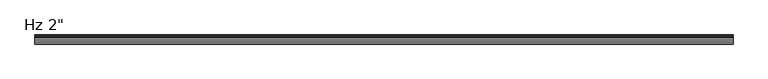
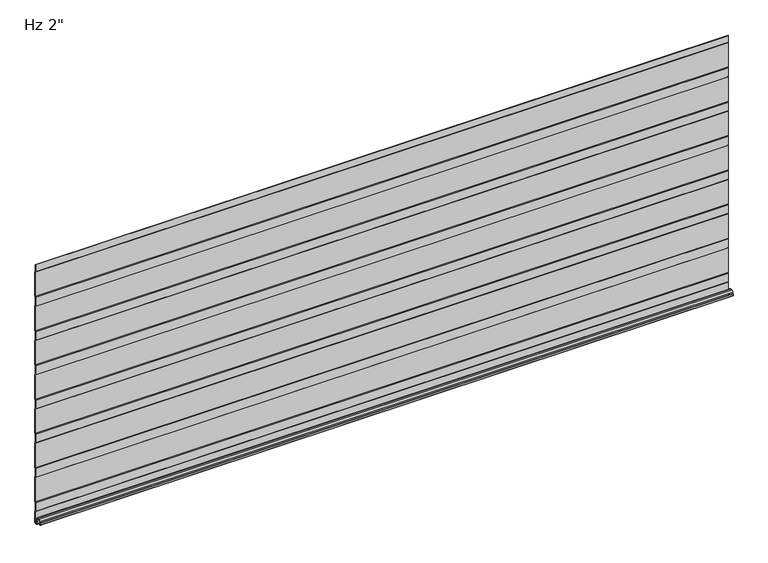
"""IFC4 building model written with IfcOpenShell, lengths in millimetres: plate geometry."""

from ifc_helpers import new_model, si_unit, frame, origin, place, context, project, spatial, polyline, circle_curve, source, transform, mapped, element, save
from ifc_brep_helpers import plane_surface, cylinder_surface, revolved_surface, advanced_brep


def plate_b517097e(model_context):
    return source(origin(), model_context, "Body", "AdvancedBrep", [
        advanced_brep(
        [(-730.0, -17.0015368, 2.0313088), (-730.0, -18.00154, 1.0313116), (-730.0, -19.0015314, 2.0313088), (-730.0, -19.0015314, 6.0315125), (-730.0, -18.0015368, 6.0315125), (-730.0, -18.0015368, 8.7237223), (-730.0, -14.7015411, 12.023718), (-730.0, -10.3015499, 12.023718), (-730.0, -7.0015544, 8.7237225), (-730.0, -7.0015544, -1.6962564), (-730.0, -5.2315602, -3.4662506), (-730.0, -1.0000126, -3.4662506), (-730.0, -1.0000126, 21.034026), (-730.0, -2.2002516, 22.4196686), (-730.0, -2.2002516, 41.7948349), (-730.0, -1.0000209, 43.1804679), (-730.0, -1.0000209, 97.2338833), (-730.0, -2.2002516, 98.6195162), (-730.0, -2.2002516, 117.9946825), (-730.0, -1.0000209, 119.3803155), (-730.0, -1.0000209, 173.4337309), (-730.0, -2.2002516, 174.8193638), (-730.0, -2.2002516, 194.1945301), (-730.0, -1.0000209, 195.5801631), (-730.0, -1.0000209, 249.6335785), (-730.0, -2.2002516, 251.0192114), (-730.0, -2.2002516, 270.3943777), (-730.0, -1.0000209, 271.7800107), (-730.0, -1.0000209, 325.8334261), (-730.0, -2.2002516, 327.219059), (-730.0, -2.2002516, 346.5942253), (-730.0, -1.0000209, 347.9798583), (-730.0, -1.0000209, 402.0332737), (-730.0, -2.2002516, 403.4189066), (-730.0, -2.2002516, 422.7940729), (-730.0, -1.0000209, 424.1797059), (-730.0, -1.0000209, 478.2331213), (-730.0, -2.2002516, 479.6187542), (-730.0, -2.2002516, 498.9939205), (-730.0, -1.0000209, 500.3795535), (-730.0, -1.0000209, 554.4329689), (-730.0, -2.2002516, 555.8186018), (-730.0, -2.2002516, 571.2), (-730.0, -1.2002516, 571.2), (-730.0, -1.2002516, 556.1914823), (-730.0, -0.3418094, 555.2004346), (-730.0, -2.09e-05, 554.2838177), (-730.0, -2.09e-05, 500.5287046), (-730.0, -0.3418094, 499.6120877), (-730.0, -1.2002516, 498.6210401), (-730.0, -1.2002516, 479.9916347), (-730.0, -0.3418094, 479.000587), (-730.0, -2.09e-05, 478.0839701), (-730.0, -2.09e-05, 424.328857), (-730.0, -0.3418094, 423.4122401), (-730.0, -1.2002516, 422.4211925), (-730.0, -1.2002516, 403.7917871), (-730.0, -0.3418094, 402.8007394), (-730.0, -2.09e-05, 401.8841225), (-730.0, -2.09e-05, 348.1290094), (-730.0, -0.3418094, 347.2123925), (-730.0, -1.2002516, 346.2213449), (-730.0, -1.2002516, 327.5919395), (-730.0, -0.3418094, 326.6008918), (-730.0, -2.09e-05, 325.6842749), (-730.0, -2.09e-05, 271.9291618), (-730.0, -0.3418094, 271.0125449), (-730.0, -1.2002516, 270.0214973), (-730.0, -1.2002516, 251.3920919), (-730.0, -0.3418094, 250.4010442), (-730.0, -2.09e-05, 249.4844273), (-730.0, -2.09e-05, 195.7293142), (-730.0, -0.3418094, 194.8126973), (-730.0, -1.2002516, 193.8216497), (-730.0, -1.2002516, 175.1922443), (-730.0, -0.3418094, 174.2011966), (-730.0, -2.09e-05, 173.2845797), (-730.0, -2.09e-05, 119.5294666), (-730.0, -0.3418094, 118.6128497), (-730.0, -1.2002516, 117.6218021), (-730.0, -1.2002516, 98.9923967), (-730.0, -0.3418094, 98.001349), (-730.0, -2.09e-05, 97.0847321), (-730.0, -2.09e-05, 43.329619), (-730.0, -0.3418094, 42.4130021), (-730.0, -1.2002516, 41.4219545), (-730.0, -1.2002516, 22.7925491), (-730.0, -0.3418094, 21.8015014), (-730.0, -2.09e-05, 20.8847931), (-730.0, -1.26e-05, -3.0662545), (-730.0, -1.4000087, -4.4662506), (-730.0, -5.2315602, -4.4662506), (-730.0, -8.0015544, -1.6962564), (-730.0, -8.0015544, 8.7237225), (-730.0, -10.3015499, 11.023718), (-730.0, -14.7015411, 11.023718), (-730.0, -17.0015368, 8.7237223), (730.0, -17.0015368, 2.0313088), (730.0, -17.0015368, 8.7237223), (730.0, -14.7015411, 11.023718), (730.0, -10.3015499, 11.023718), (730.0, -8.0015544, 8.7237225), (730.0, -8.0015544, -1.6962564), (730.0, -5.2315602, -4.4662506), (730.0, -1.4000087, -4.4662506), (730.0, -1.26e-05, -3.0662545), (730.0, -1.26e-05, 20.8848845), (730.0, -0.3418094, 21.8015014), (730.0, -1.2002516, 22.7925491), (730.0, -1.2002516, 41.4219545), (730.0, -0.3418094, 42.4130021), (730.0, -2.09e-05, 43.329619), (730.0, -2.09e-05, 97.0847321), (730.0, -0.3418094, 98.001349), (730.0, -1.2002516, 98.9923967), (730.0, -1.2002516, 117.6218021), (730.0, -0.3418094, 118.6128497), (730.0, -2.09e-05, 119.5294666), (730.0, -2.09e-05, 173.2845797), (730.0, -0.3418094, 174.2011966), (730.0, -1.2002516, 175.1922443), (730.0, -1.2002516, 193.8216497), (730.0, -0.3418094, 194.8126973), (730.0, -2.09e-05, 195.7293142), (730.0, -2.09e-05, 249.4844273), (730.0, -0.3418094, 250.4010442), (730.0, -1.2002516, 251.3920919), (730.0, -1.2002516, 270.0214973), (730.0, -0.3418094, 271.0125449), (730.0, -2.09e-05, 271.9291618), (730.0, -2.09e-05, 325.6842749), (730.0, -0.3418094, 326.6008918), (730.0, -1.2002516, 327.5919395), (730.0, -1.2002516, 346.2213449), (730.0, -0.3418094, 347.2123925), (730.0, -2.09e-05, 348.1290094), (730.0, -2.09e-05, 401.8841225), (730.0, -0.3418094, 402.8007394), (730.0, -1.2002516, 403.7917871), (730.0, -1.2002516, 422.4211925), (730.0, -0.3418094, 423.4122401), (730.0, -2.09e-05, 424.328857), (730.0, -2.09e-05, 478.0839701), (730.0, -0.3418094, 479.000587), (730.0, -1.2002516, 479.9916347), (730.0, -1.2002516, 498.6210401), (730.0, -0.3418094, 499.6120877), (730.0, -2.09e-05, 500.5287046), (730.0, -2.09e-05, 554.2838177), (730.0, -0.3418094, 555.2004346), (730.0, -1.2002516, 556.1914823), (730.0, -1.2002516, 571.2), (730.0, -2.2002516, 571.2), (730.0, -2.2002516, 555.8186018), (730.0, -1.0000209, 554.4329689), (730.0, -1.0000209, 500.3795535), (730.0, -2.2002516, 498.9939205), (730.0, -2.2002516, 479.6187542), (730.0, -1.0000209, 478.2331213), (730.0, -1.0000209, 424.1797059), (730.0, -2.2002516, 422.7940729), (730.0, -2.2002516, 403.4189066), (730.0, -1.0000209, 402.0332737), (730.0, -1.0000209, 347.9798583), (730.0, -2.2002516, 346.5942253), (730.0, -2.2002516, 327.219059), (730.0, -1.0000209, 325.8334261), (730.0, -1.0000209, 271.7800107), (730.0, -2.2002516, 270.3943777), (730.0, -2.2002516, 251.0192114), (730.0, -1.0000209, 249.6335785), (730.0, -1.0000209, 195.5801631), (730.0, -2.2002516, 194.1945301), (730.0, -2.2002516, 174.8193638), (730.0, -1.0000209, 173.4337309), (730.0, -1.0000209, 119.3803155), (730.0, -2.2002516, 117.9946825), (730.0, -2.2002516, 98.6195162), (730.0, -1.0000209, 97.2338833), (730.0, -1.0000209, 43.1804679), (730.0, -2.2002516, 41.7948349), (730.0, -2.2002516, 22.4196686), (730.0, -1.0000126, 21.034026), (730.0, -1.0000126, -3.4662506), (730.0, -5.2315602, -3.4662506), (730.0, -7.0015544, -1.6962564), (730.0, -7.0015544, 8.7237225), (730.0, -10.3015499, 12.023718), (730.0, -14.7015411, 12.023718), (730.0, -18.0015368, 8.7237223), (730.0, -18.0015368, 6.0315125), (730.0, -19.0015314, 6.0315125), (730.0, -19.0015314, 2.0313088), (730.0, -18.0015401, 1.0313116)],
        [
            (0, 1, circle_curve(frame((-730.0, -18.0015341, 2.0313088), z_axis=(-1.0, 0.0, 0.0), x_axis=(0.0, 0.0, 1.0)), 0.9999973)),
            (1, 2, circle_curve(frame((-730.0, -18.0015342, 2.0313088), z_axis=(-1.0, 0.0, 0.0), x_axis=(0.0, 0.0, 1.0)), 0.9999972)),
            (2, 3),
            (3, 4),
            (4, 5),
            (5, 6, circle_curve(frame((-730.0, -14.7015411, 8.7237223), z_axis=(-1.0, 0.0, 0.0), x_axis=(0.0, 0.0, 1.0)), 3.2999957)),
            (6, 7),
            (7, 8, circle_curve(frame((-730.0, -10.3015499, 8.7237225), z_axis=(-1.0, 0.0, 0.0), x_axis=(0.0, 0.0, 1.0)), 3.2999955)),
            (8, 9),
            (9, 10, circle_curve(frame((-730.0, -5.2315602, -1.6962564), z_axis=(1.0, 0.0, 0.0), x_axis=(0.0, 0.0, 1.0)), 1.7699942)),
            (10, 11),
            (11, 12),
            (12, 13),
            (13, 14),
            (14, 15),
            (15, 16),
            (16, 17),
            (17, 18),
            (18, 19),
            (19, 20),
            (20, 21),
            (21, 22),
            (22, 23),
            (23, 24),
            (24, 25),
            (25, 26),
            (26, 27),
            (27, 28),
            (28, 29),
            (29, 30),
            (30, 31),
            (31, 32),
            (32, 33),
            (33, 34),
            (34, 35),
            (35, 36),
            (36, 37),
            (37, 38),
            (38, 39),
            (39, 40),
            (40, 41),
            (41, 42),
            (42, 43),
            (43, 44),
            (44, 45),
            (45, 46, circle_curve(frame((-730.0, -1.4000181, 554.2838177), z_axis=(-1.0, 0.0, 0.0), x_axis=(0.0, 0.0, 1.0)), 1.3999972)),
            (46, 47),
            (47, 48, circle_curve(frame((-730.0, -1.4000181, 500.5287046), z_axis=(-1.0, 0.0, 0.0), x_axis=(0.0, 0.0, 1.0)), 1.3999972)),
            (48, 49),
            (49, 50),
            (50, 51),
            (51, 52, circle_curve(frame((-730.0, -1.4000181, 478.0839701), z_axis=(-1.0, 0.0, 0.0), x_axis=(0.0, 0.0, 1.0)), 1.3999972)),
            (52, 53),
            (53, 54, circle_curve(frame((-730.0, -1.4000181, 424.328857), z_axis=(-1.0, 0.0, 0.0), x_axis=(0.0, 0.0, 1.0)), 1.3999972)),
            (54, 55),
            (55, 56),
            (56, 57),
            (57, 58, circle_curve(frame((-730.0, -1.4000181, 401.8841225), z_axis=(-1.0, 0.0, 0.0), x_axis=(0.0, 0.0, 1.0)), 1.3999972)),
            (58, 59),
            (59, 60, circle_curve(frame((-730.0, -1.4000181, 348.1290094), z_axis=(-1.0, 0.0, 0.0), x_axis=(0.0, 0.0, 1.0)), 1.3999972)),
            (60, 61),
            (61, 62),
            (62, 63),
            (63, 64, circle_curve(frame((-730.0, -1.4000181, 325.6842749), z_axis=(-1.0, 0.0, 0.0), x_axis=(0.0, 0.0, 1.0)), 1.3999972)),
            (64, 65),
            (65, 66, circle_curve(frame((-730.0, -1.4000181, 271.9291618), z_axis=(-1.0, 0.0, 0.0), x_axis=(0.0, 0.0, 1.0)), 1.3999972)),
            (66, 67),
            (67, 68),
            (68, 69),
            (69, 70, circle_curve(frame((-730.0, -1.4000181, 249.4844273), z_axis=(-1.0, 0.0, 0.0), x_axis=(0.0, 0.0, 1.0)), 1.3999972)),
            (70, 71),
            (71, 72, circle_curve(frame((-730.0, -1.4000181, 195.7293142), z_axis=(-1.0, 0.0, 0.0), x_axis=(0.0, 0.0, 1.0)), 1.3999972)),
            (72, 73),
            (73, 74),
            (74, 75),
            (75, 76, circle_curve(frame((-730.0, -1.4000181, 173.2845797), z_axis=(-1.0, 0.0, 0.0), x_axis=(0.0, 0.0, 1.0)), 1.3999972)),
            (76, 77),
            (77, 78, circle_curve(frame((-730.0, -1.4000181, 119.5294666), z_axis=(-1.0, 0.0, 0.0), x_axis=(0.0, 0.0, 1.0)), 1.3999972)),
            (78, 79),
            (79, 80),
            (80, 81),
            (81, 82, circle_curve(frame((-730.0, -1.4000181, 97.0847321), z_axis=(-1.0, 0.0, 0.0), x_axis=(0.0, 0.0, 1.0)), 1.3999972)),
            (82, 83),
            (83, 84, circle_curve(frame((-730.0, -1.4000181, 43.329619), z_axis=(-1.0, 0.0, 0.0), x_axis=(0.0, 0.0, 1.0)), 1.3999972)),
            (84, 85),
            (85, 86),
            (86, 87),
            (87, 88, circle_curve(frame((-730.0, -1.4000181, 20.8848845), z_axis=(-1.0, 0.0, 0.0), x_axis=(0.0, 0.0, 1.0)), 1.3999972)),
            (88, 89),
            (89, 90, circle_curve(frame((-730.0, -1.4000087, -3.0662545), z_axis=(-1.0, 0.0, 0.0), x_axis=(0.0, 0.0, 1.0)), 1.3999962)),
            (90, 91),
            (91, 92, circle_curve(frame((-730.0, -5.2315602, -1.6962564), z_axis=(-1.0, 0.0, 0.0), x_axis=(0.0, 0.0, 1.0)), 2.7699942)),
            (92, 93),
            (93, 94, circle_curve(frame((-730.0, -10.3015499, 8.7237225), z_axis=(1.0, 0.0, 0.0), x_axis=(0.0, 0.0, 1.0)), 2.2999955)),
            (94, 95),
            (95, 96, circle_curve(frame((-730.0, -14.7015411, 8.7237223), z_axis=(1.0, 0.0, 0.0), x_axis=(0.0, 0.0, 1.0)), 2.2999957)),
            (96, 0),
            (97, 98),
            (98, 99, circle_curve(frame((730.0, -14.7015411, 8.7237223), z_axis=(-1.0, 0.0, 0.0), x_axis=(0.0, 0.0, 1.0)), 2.2999957)),
            (99, 100),
            (100, 101, circle_curve(frame((730.0, -10.3015499, 8.7237225), z_axis=(-1.0, 0.0, 0.0), x_axis=(0.0, 0.0, 1.0)), 2.2999955)),
            (101, 102),
            (102, 103, circle_curve(frame((730.0, -5.2315602, -1.6962564), z_axis=(1.0, 0.0, 0.0), x_axis=(0.0, 0.0, 1.0)), 2.7699942)),
            (103, 104),
            (104, 105, circle_curve(frame((730.0, -1.4000087, -3.0662545), z_axis=(1.0, 0.0, 0.0), x_axis=(0.0, 0.0, 1.0)), 1.3999962)),
            (105, 106),
            (106, 107, circle_curve(frame((730.0, -1.4000181, 20.8848845), z_axis=(1.0, 0.0, 0.0), x_axis=(0.0, 0.0, 1.0)), 1.3999972)),
            (107, 108),
            (108, 109),
            (109, 110),
            (110, 111, circle_curve(frame((730.0, -1.4000181, 43.329619), z_axis=(1.0, 0.0, 0.0), x_axis=(0.0, 0.0, 1.0)), 1.3999972)),
            (111, 112),
            (112, 113, circle_curve(frame((730.0, -1.4000181, 97.0847321), z_axis=(1.0, 0.0, 0.0), x_axis=(0.0, 0.0, 1.0)), 1.3999972)),
            (113, 114),
            (114, 115),
            (115, 116),
            (116, 117, circle_curve(frame((730.0, -1.4000181, 119.5294666), z_axis=(1.0, 0.0, 0.0), x_axis=(0.0, 0.0, 1.0)), 1.3999972)),
            (117, 118),
            (118, 119, circle_curve(frame((730.0, -1.4000181, 173.2845797), z_axis=(1.0, 0.0, 0.0), x_axis=(0.0, 0.0, 1.0)), 1.3999972)),
            (119, 120),
            (120, 121),
            (121, 122),
            (122, 123, circle_curve(frame((730.0, -1.4000181, 195.7293142), z_axis=(1.0, 0.0, 0.0), x_axis=(0.0, 0.0, 1.0)), 1.3999972)),
            (123, 124),
            (124, 125, circle_curve(frame((730.0, -1.4000181, 249.4844273), z_axis=(1.0, 0.0, 0.0), x_axis=(0.0, 0.0, 1.0)), 1.3999972)),
            (125, 126),
            (126, 127),
            (127, 128),
            (128, 129, circle_curve(frame((730.0, -1.4000181, 271.9291618), z_axis=(1.0, 0.0, 0.0), x_axis=(0.0, 0.0, 1.0)), 1.3999972)),
            (129, 130),
            (130, 131, circle_curve(frame((730.0, -1.4000181, 325.6842749), z_axis=(1.0, 0.0, 0.0), x_axis=(0.0, 0.0, 1.0)), 1.3999972)),
            (131, 132),
            (132, 133),
            (133, 134),
            (134, 135, circle_curve(frame((730.0, -1.4000181, 348.1290094), z_axis=(1.0, 0.0, 0.0), x_axis=(0.0, 0.0, 1.0)), 1.3999972)),
            (135, 136),
            (136, 137, circle_curve(frame((730.0, -1.4000181, 401.8841225), z_axis=(1.0, 0.0, 0.0), x_axis=(0.0, 0.0, 1.0)), 1.3999972)),
            (137, 138),
            (138, 139),
            (139, 140),
            (140, 141, circle_curve(frame((730.0, -1.4000181, 424.328857), z_axis=(1.0, 0.0, 0.0), x_axis=(0.0, 0.0, 1.0)), 1.3999972)),
            (141, 142),
            (142, 143, circle_curve(frame((730.0, -1.4000181, 478.0839701), z_axis=(1.0, 0.0, 0.0), x_axis=(0.0, 0.0, 1.0)), 1.3999972)),
            (143, 144),
            (144, 145),
            (145, 146),
            (146, 147, circle_curve(frame((730.0, -1.4000181, 500.5287046), z_axis=(1.0, 0.0, 0.0), x_axis=(0.0, 0.0, 1.0)), 1.3999972)),
            (147, 148),
            (148, 149, circle_curve(frame((730.0, -1.4000181, 554.2838177), z_axis=(1.0, 0.0, 0.0), x_axis=(0.0, 0.0, 1.0)), 1.3999972)),
            (149, 150),
            (150, 151),
            (151, 152),
            (152, 153),
            (153, 154),
            (154, 155),
            (155, 156),
            (156, 157),
            (157, 158),
            (158, 159),
            (159, 160),
            (160, 161),
            (161, 162),
            (162, 163),
            (163, 164),
            (164, 165),
            (165, 166),
            (166, 167),
            (167, 168),
            (168, 169),
            (169, 170),
            (170, 171),
            (171, 172),
            (172, 173),
            (173, 174),
            (174, 175),
            (175, 176),
            (176, 177),
            (177, 178),
            (178, 179),
            (179, 180),
            (180, 181),
            (181, 182),
            (182, 183),
            (183, 184),
            (184, 185, circle_curve(frame((730.0, -5.2315602, -1.6962564), z_axis=(-1.0, 0.0, 0.0), x_axis=(0.0, 0.0, 1.0)), 1.7699942)),
            (185, 186),
            (186, 187, circle_curve(frame((730.0, -10.3015499, 8.7237225), z_axis=(1.0, 0.0, 0.0), x_axis=(0.0, 0.0, 1.0)), 3.2999955)),
            (187, 188),
            (188, 189, circle_curve(frame((730.0, -14.7015411, 8.7237223), z_axis=(1.0, 0.0, 0.0), x_axis=(0.0, 0.0, 1.0)), 3.2999957)),
            (189, 190),
            (190, 191),
            (191, 192),
            (192, 193, circle_curve(frame((730.0, -18.0015342, 2.0313088), z_axis=(1.0, 0.0, 0.0), x_axis=(0.0, 0.0, 1.0)), 0.9999972)),
            (193, 97, circle_curve(frame((730.0, -18.0015341, 2.0313088), z_axis=(1.0, 0.0, 0.0), x_axis=(0.0, 0.0, 1.0)), 0.9999973)),
            (42, 152),
            (151, 43),
            (96, 98),
            (97, 0),
            (95, 99),
            (94, 100),
            (93, 101),
            (92, 102),
            (91, 103),
            (90, 104),
            (89, 105),
            (88, 106),
            (87, 107),
            (86, 108),
            (85, 109),
            (84, 110),
            (83, 111),
            (82, 112),
            (81, 113),
            (80, 114),
            (79, 115),
            (78, 116),
            (77, 117),
            (76, 118),
            (75, 119),
            (74, 120),
            (73, 121),
            (72, 122),
            (71, 123),
            (70, 124),
            (69, 125),
            (68, 126),
            (67, 127),
            (66, 128),
            (65, 129),
            (64, 130),
            (63, 131),
            (62, 132),
            (61, 133),
            (60, 134),
            (59, 135),
            (58, 136),
            (57, 137),
            (56, 138),
            (55, 139),
            (54, 140),
            (53, 141),
            (52, 142),
            (51, 143),
            (50, 144),
            (49, 145),
            (48, 146),
            (47, 147),
            (46, 148),
            (45, 149),
            (44, 150),
            (41, 153),
            (40, 154),
            (39, 155),
            (38, 156),
            (37, 157),
            (36, 158),
            (35, 159),
            (34, 160),
            (33, 161),
            (32, 162),
            (31, 163),
            (30, 164),
            (29, 165),
            (28, 166),
            (27, 167),
            (26, 168),
            (25, 169),
            (24, 170),
            (23, 171),
            (22, 172),
            (21, 173),
            (20, 174),
            (19, 175),
            (18, 176),
            (17, 177),
            (16, 178),
            (15, 179),
            (14, 180),
            (13, 181),
            (12, 182),
            (11, 183),
            (10, 184),
            (9, 185),
            (8, 186),
            (7, 187),
            (6, 188),
            (5, 189),
            (4, 190),
            (3, 191),
            (2, 192),
            (1, 193),
        ],
        [
            plane_surface(frame((-730.0, -2.09e-05, 457.2), z_axis=(-1.0, 0.0, 0.0), x_axis=(0.0, 1.0, 0.0))),
            plane_surface(frame((730.0, -2.09e-05, 457.2), z_axis=(1.0, 0.0, 0.0), x_axis=(0.0, 1.0, 0.0))),
            plane_surface(frame((730.0, 9.9999791, 571.2), z_axis=(0.0, 0.0, 1.0), x_axis=(-1.0, 0.0, 0.0))),
            plane_surface(frame((-730.0, -17.0015368, 2.0313088), z_axis=(0.0, 1.0, 0.0), x_axis=(1.0, 0.0, 0.0))),
            revolved_surface(polyline([(730.0, -14.7015411, 11.023718), (-730.0, -14.7015411, 11.023718)]), (-730.0, -14.7015411, 8.7237223), (1.0, 0.0, 0.0)),
            plane_surface(frame((-730.0, -14.7015411, 11.023718), z_axis=(0.0, 0.0, -1.0), x_axis=(1.0, 0.0, 0.0))),
            revolved_surface(polyline([(730.0, -10.3015499, 11.023717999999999), (-730.0, -10.3015499, 11.023717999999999)]), (-730.0, -10.3015499, 8.7237225), (1.0, 0.0, 0.0)),
            plane_surface(frame((-730.0, -8.0015544, 8.7237225), z_axis=(0.0, -1.0, 0.0), x_axis=(1.0, 0.0, 0.0))),
            cylinder_surface(frame((-730.0, -5.2315602, -1.6962564), z_axis=(-1.0, 0.0, 0.0), x_axis=(0.0, 0.0, 1.0)), 2.7699942),
            plane_surface(frame((-730.0, -5.2315602, -4.4662506), z_axis=(0.0, 0.0, -1.0), x_axis=(1.0, 0.0, 0.0))),
            cylinder_surface(frame((-730.0, -1.4000087, -3.0662545), z_axis=(-1.0, 0.0, 0.0), x_axis=(0.0, 0.0, 1.0)), 1.3999962),
            plane_surface(frame((-730.0, -1.26e-05, -3.0662545), z_axis=(0.0, 1.0, 0.0), x_axis=(1.0, 0.0, 0.0))),
            cylinder_surface(frame((-730.0, -1.4000181, 20.8848845), z_axis=(-1.0, 0.0, 0.0), x_axis=(0.0, 0.0, 1.0)), 1.3999972),
            plane_surface(frame((-730.0, -0.3418094, 21.8015014), z_axis=(0.0, 0.755864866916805, 0.6547276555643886), x_axis=(1.0, 0.0, 0.0))),
            plane_surface(frame((-730.0, -1.2002516, 32.1072518), z_axis=(0.0, 1.0, 0.0), x_axis=(1.0, 0.0, 0.0))),
            plane_surface(frame((-730.0, -1.2002516, 41.4219545), z_axis=(0.0, 0.755864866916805, -0.6547276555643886), x_axis=(1.0, 0.0, 0.0))),
            cylinder_surface(frame((-730.0, -1.4000181, 43.329619), z_axis=(-1.0, 0.0, 0.0), x_axis=(0.0, 0.0, 1.0)), 1.3999972),
            plane_surface(frame((-730.0, -2.09e-05, 43.329619), z_axis=(0.0, 1.0, 0.0), x_axis=(1.0, 0.0, 0.0))),
            cylinder_surface(frame((-730.0, -1.4000181, 97.0847321), z_axis=(-1.0, 0.0, 0.0), x_axis=(0.0, 0.0, 1.0)), 1.3999972),
            plane_surface(frame((-730.0, -0.3418094, 98.001349), z_axis=(0.0, 0.755864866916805, 0.6547276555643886), x_axis=(1.0, 0.0, 0.0))),
            plane_surface(frame((-730.0, -1.2002516, 108.3070994), z_axis=(0.0, 1.0, 0.0), x_axis=(1.0, 0.0, 0.0))),
            plane_surface(frame((-730.0, -1.2002516, 117.6218021), z_axis=(0.0, 0.755864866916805, -0.6547276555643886), x_axis=(1.0, 0.0, 0.0))),
            cylinder_surface(frame((-730.0, -1.4000181, 119.5294666), z_axis=(-1.0, 0.0, 0.0), x_axis=(0.0, 0.0, 1.0)), 1.3999972),
            plane_surface(frame((-730.0, -2.09e-05, 119.5294666), z_axis=(0.0, 1.0, 0.0), x_axis=(1.0, 0.0, 0.0))),
            cylinder_surface(frame((-730.0, -1.4000181, 173.2845797), z_axis=(-1.0, 0.0, 0.0), x_axis=(0.0, 0.0, 1.0)), 1.3999972),
            plane_surface(frame((-730.0, -0.3418094, 174.2011966), z_axis=(0.0, 0.755864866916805, 0.6547276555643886), x_axis=(1.0, 0.0, 0.0))),
            plane_surface(frame((-730.0, -1.2002516, 184.506947), z_axis=(0.0, 1.0, 0.0), x_axis=(1.0, 0.0, 0.0))),
            plane_surface(frame((-730.0, -1.2002516, 193.8216497), z_axis=(0.0, 0.755864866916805, -0.6547276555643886), x_axis=(1.0, 0.0, 0.0))),
            cylinder_surface(frame((-730.0, -1.4000181, 195.7293142), z_axis=(-1.0, 0.0, 0.0), x_axis=(0.0, 0.0, 1.0)), 1.3999972),
            plane_surface(frame((-730.0, -2.09e-05, 195.7293142), z_axis=(0.0, 1.0, 0.0), x_axis=(1.0, 0.0, 0.0))),
            cylinder_surface(frame((-730.0, -1.4000181, 249.4844273), z_axis=(-1.0, 0.0, 0.0), x_axis=(0.0, 0.0, 1.0)), 1.3999972),
            plane_surface(frame((-730.0, -0.3418094, 250.4010442), z_axis=(0.0, 0.755864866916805, 0.6547276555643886), x_axis=(1.0, 0.0, 0.0))),
            plane_surface(frame((-730.0, -1.2002516, 260.7067946), z_axis=(0.0, 1.0, 0.0), x_axis=(1.0, 0.0, 0.0))),
            plane_surface(frame((-730.0, -1.2002516, 270.0214973), z_axis=(0.0, 0.755864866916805, -0.6547276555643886), x_axis=(1.0, 0.0, 0.0))),
            cylinder_surface(frame((-730.0, -1.4000181, 271.9291618), z_axis=(-1.0, 0.0, 0.0), x_axis=(0.0, 0.0, 1.0)), 1.3999972),
            plane_surface(frame((-730.0, -2.09e-05, 271.9291618), z_axis=(0.0, 1.0, 0.0), x_axis=(1.0, 0.0, 0.0))),
            cylinder_surface(frame((-730.0, -1.4000181, 325.6842749), z_axis=(-1.0, 0.0, 0.0), x_axis=(0.0, 0.0, 1.0)), 1.3999972),
            plane_surface(frame((-730.0, -0.3418094, 326.6008918), z_axis=(0.0, 0.755864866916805, 0.6547276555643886), x_axis=(1.0, 0.0, 0.0))),
            plane_surface(frame((-730.0, -1.2002516, 336.9066422), z_axis=(0.0, 1.0, 0.0), x_axis=(1.0, 0.0, 0.0))),
            plane_surface(frame((-730.0, -1.2002516, 346.2213449), z_axis=(0.0, 0.755864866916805, -0.6547276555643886), x_axis=(1.0, 0.0, 0.0))),
            cylinder_surface(frame((-730.0, -1.4000181, 348.1290094), z_axis=(-1.0, 0.0, 0.0), x_axis=(0.0, 0.0, 1.0)), 1.3999972),
            plane_surface(frame((-730.0, -2.09e-05, 348.1290094), z_axis=(0.0, 1.0, 0.0), x_axis=(1.0, 0.0, 0.0))),
            cylinder_surface(frame((-730.0, -1.4000181, 401.8841225), z_axis=(-1.0, 0.0, 0.0), x_axis=(0.0, 0.0, 1.0)), 1.3999972),
            plane_surface(frame((-730.0, -0.3418094, 402.8007394), z_axis=(0.0, 0.755864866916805, 0.6547276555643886), x_axis=(1.0, 0.0, 0.0))),
            plane_surface(frame((-730.0, -1.2002516, 413.1064898), z_axis=(0.0, 1.0, 0.0), x_axis=(1.0, 0.0, 0.0))),
            plane_surface(frame((-730.0, -1.2002516, 422.4211925), z_axis=(0.0, 0.755864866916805, -0.6547276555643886), x_axis=(1.0, 0.0, 0.0))),
            cylinder_surface(frame((-730.0, -1.4000181, 424.328857), z_axis=(-1.0, 0.0, 0.0), x_axis=(0.0, 0.0, 1.0)), 1.3999972),
            plane_surface(frame((-730.0, -2.09e-05, 424.328857), z_axis=(0.0, 1.0, 0.0), x_axis=(1.0, 0.0, 0.0))),
            cylinder_surface(frame((-730.0, -1.4000181, 478.0839701), z_axis=(-1.0, 0.0, 0.0), x_axis=(0.0, 0.0, 1.0)), 1.3999972),
            plane_surface(frame((-730.0, -0.3418094, 479.000587), z_axis=(0.0, 0.755864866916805, 0.6547276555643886), x_axis=(1.0, 0.0, 0.0))),
            plane_surface(frame((-730.0, -1.2002516, 489.3063374), z_axis=(0.0, 1.0, 0.0), x_axis=(1.0, 0.0, 0.0))),
            plane_surface(frame((-730.0, -1.2002516, 498.6210401), z_axis=(0.0, 0.755864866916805, -0.6547276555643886), x_axis=(1.0, 0.0, 0.0))),
            cylinder_surface(frame((-730.0, -1.4000181, 500.5287046), z_axis=(-1.0, 0.0, 0.0), x_axis=(0.0, 0.0, 1.0)), 1.3999972),
            plane_surface(frame((-730.0, -2.09e-05, 500.5287046), z_axis=(0.0, 1.0, 0.0), x_axis=(1.0, 0.0, 0.0))),
            cylinder_surface(frame((-730.0, -1.4000181, 554.2838177), z_axis=(-1.0, 0.0, 0.0), x_axis=(0.0, 0.0, 1.0)), 1.3999972),
            plane_surface(frame((-730.0, -0.3418094, 555.2004346), z_axis=(0.0, 0.755864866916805, 0.6547276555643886), x_axis=(1.0, 0.0, 0.0))),
            plane_surface(frame((-730.0, -1.2002516, 565.506185), z_axis=(0.0, 1.0, 0.0), x_axis=(1.0, 0.0, 0.0))),
            plane_surface(frame((-730.0, -2.2002516, 575.1937681), z_axis=(0.0, -1.0, 0.0), x_axis=(1.0, 0.0, 0.0))),
            plane_surface(frame((-730.0, -2.2002516, 555.8186018), z_axis=(0.0, -0.755864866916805, -0.6547276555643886), x_axis=(1.0, 0.0, 0.0))),
            plane_surface(frame((-730.0, -1.0000209, 554.4329689), z_axis=(0.0, -1.0, 0.0), x_axis=(1.0, 0.0, 0.0))),
            plane_surface(frame((-730.0, -1.0000209, 500.3795535), z_axis=(0.0, -0.755864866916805, 0.6547276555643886), x_axis=(1.0, 0.0, 0.0))),
            plane_surface(frame((-730.0, -2.2002516, 498.9939205), z_axis=(0.0, -1.0, 0.0), x_axis=(1.0, 0.0, 0.0))),
            plane_surface(frame((-730.0, -2.2002516, 479.6187542), z_axis=(0.0, -0.755864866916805, -0.6547276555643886), x_axis=(1.0, 0.0, 0.0))),
            plane_surface(frame((-730.0, -1.0000209, 478.2331213), z_axis=(0.0, -1.0, 0.0), x_axis=(1.0, 0.0, 0.0))),
            plane_surface(frame((-730.0, -1.0000209, 424.1797059), z_axis=(0.0, -0.755864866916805, 0.6547276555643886), x_axis=(1.0, 0.0, 0.0))),
            plane_surface(frame((-730.0, -2.2002516, 422.7940729), z_axis=(0.0, -1.0, 0.0), x_axis=(1.0, 0.0, 0.0))),
            plane_surface(frame((-730.0, -2.2002516, 403.4189066), z_axis=(0.0, -0.755864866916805, -0.6547276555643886), x_axis=(1.0, 0.0, 0.0))),
            plane_surface(frame((-730.0, -1.0000209, 402.0332737), z_axis=(0.0, -1.0, 0.0), x_axis=(1.0, 0.0, 0.0))),
            plane_surface(frame((-730.0, -1.0000209, 347.9798583), z_axis=(0.0, -0.755864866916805, 0.6547276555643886), x_axis=(1.0, 0.0, 0.0))),
            plane_surface(frame((-730.0, -2.2002516, 346.5942253), z_axis=(0.0, -1.0, 0.0), x_axis=(1.0, 0.0, 0.0))),
            plane_surface(frame((-730.0, -2.2002516, 327.219059), z_axis=(0.0, -0.755864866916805, -0.6547276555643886), x_axis=(1.0, 0.0, 0.0))),
            plane_surface(frame((-730.0, -1.0000209, 325.8334261), z_axis=(0.0, -1.0, 0.0), x_axis=(1.0, 0.0, 0.0))),
            plane_surface(frame((-730.0, -1.0000209, 271.7800107), z_axis=(0.0, -0.755864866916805, 0.6547276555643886), x_axis=(1.0, 0.0, 0.0))),
            plane_surface(frame((-730.0, -2.2002516, 270.3943777), z_axis=(0.0, -1.0, 0.0), x_axis=(1.0, 0.0, 0.0))),
            plane_surface(frame((-730.0, -2.2002516, 251.0192114), z_axis=(0.0, -0.755864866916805, -0.6547276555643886), x_axis=(1.0, 0.0, 0.0))),
            plane_surface(frame((-730.0, -1.0000209, 249.6335785), z_axis=(0.0, -1.0, 0.0), x_axis=(1.0, 0.0, 0.0))),
            plane_surface(frame((-730.0, -1.0000209, 195.5801631), z_axis=(0.0, -0.755864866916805, 0.6547276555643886), x_axis=(1.0, 0.0, 0.0))),
            plane_surface(frame((-730.0, -2.2002516, 194.1945301), z_axis=(0.0, -1.0, 0.0), x_axis=(1.0, 0.0, 0.0))),
            plane_surface(frame((-730.0, -2.2002516, 174.8193638), z_axis=(0.0, -0.755864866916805, -0.6547276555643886), x_axis=(1.0, 0.0, 0.0))),
            plane_surface(frame((-730.0, -1.0000209, 173.4337309), z_axis=(0.0, -1.0, 0.0), x_axis=(1.0, 0.0, 0.0))),
            plane_surface(frame((-730.0, -1.0000209, 119.3803155), z_axis=(0.0, -0.755864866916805, 0.6547276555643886), x_axis=(1.0, 0.0, 0.0))),
            plane_surface(frame((-730.0, -2.2002516, 117.9946825), z_axis=(0.0, -1.0, 0.0), x_axis=(1.0, 0.0, 0.0))),
            plane_surface(frame((-730.0, -2.2002516, 98.6195162), z_axis=(0.0, -0.755864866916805, -0.6547276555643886), x_axis=(1.0, 0.0, 0.0))),
            plane_surface(frame((-730.0, -1.0000209, 97.2338833), z_axis=(0.0, -1.0, 0.0), x_axis=(1.0, 0.0, 0.0))),
            plane_surface(frame((-730.0, -1.0000209, 43.1804679), z_axis=(0.0, -0.755864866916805, 0.6547276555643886), x_axis=(1.0, 0.0, 0.0))),
            plane_surface(frame((-730.0, -2.2002516, 41.7948349), z_axis=(0.0, -1.0, 0.0), x_axis=(1.0, 0.0, 0.0))),
            plane_surface(frame((-730.0, -2.2002516, 22.4196686), z_axis=(0.0, -0.755864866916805, -0.6547276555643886), x_axis=(1.0, 0.0, 0.0))),
            plane_surface(frame((-730.0, -1.0000126, 21.034026), z_axis=(0.0, -1.0, 0.0), x_axis=(1.0, 0.0, 0.0))),
            plane_surface(frame((-730.0, -1.0000126, -3.4662506), z_axis=(0.0, 0.0, 1.0), x_axis=(1.0, 0.0, 0.0))),
            revolved_surface(polyline([(730.0, -5.2315602, 0.07373779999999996), (-730.0, -5.2315602, 0.07373779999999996)]), (-730.0, -5.2315602, -1.6962564), (1.0, 0.0, 0.0)),
            plane_surface(frame((-730.0, -7.0015544, -1.6962564), z_axis=(0.0, 1.0, 0.0), x_axis=(1.0, 0.0, 0.0))),
            cylinder_surface(frame((-730.0, -10.3015499, 8.7237225), z_axis=(-1.0, 0.0, 0.0), x_axis=(0.0, 0.0, 1.0)), 3.2999955),
            plane_surface(frame((-730.0, -10.3015499, 12.023718), z_axis=(0.0, 0.0, 1.0), x_axis=(1.0, 0.0, 0.0))),
            cylinder_surface(frame((-730.0, -14.7015411, 8.7237223), z_axis=(-1.0, 0.0, 0.0), x_axis=(0.0, 0.0, 1.0)), 3.2999957),
            plane_surface(frame((-730.0, -18.0015368, 8.7237223), z_axis=(0.0, -1.0, 0.0), x_axis=(1.0, 0.0, 0.0))),
            plane_surface(frame((-730.0, -18.0015368, 6.0315125), z_axis=(0.0, 0.0, 1.0), x_axis=(1.0, 0.0, 0.0))),
            plane_surface(frame((-730.0, -19.0015314, 6.0315125), z_axis=(0.0, -1.0, 0.0), x_axis=(1.0, 0.0, 0.0))),
            cylinder_surface(frame((-730.0, -18.0015342, 2.0313088), z_axis=(-1.0, 0.0, 0.0), x_axis=(0.0, 0.0, 1.0)), 0.9999972),
            cylinder_surface(frame((-730.0, -18.0015341, 2.0313088), z_axis=(-1.0, 0.0, 0.0), x_axis=(0.0, 0.0, 1.0)), 0.9999973),
        ],
        [
            (0, [[1, 2, 3, 4, 5, 6, 7, 8, 9, 10, 11, 12, 13, 14, 15, 16, 17, 18, 19, 20, 21, 22, 23, 24, 25, 26, 27, 28, 29, 30, 31, 32, 33, 34, 35, 36, 37, 38, 39, 40, 41, 42, 43, 44, 45, 46, 47, 48, 49, 50, 51, 52, 53, 54, 55, 56, 57, 58, 59, 60, 61, 62, 63, 64, 65, 66, 67, 68, 69, 70, 71, 72, 73, 74, 75, 76, 77, 78, 79, 80, 81, 82, 83, 84, 85, 86, 87, 88, 89, 90, 91, 92, 93, 94, 95, 96, 97]]),
            (1, [[98, 99, 100, 101, 102, 103, 104, 105, 106, 107, 108, 109, 110, 111, 112, 113, 114, 115, 116, 117, 118, 119, 120, 121, 122, 123, 124, 125, 126, 127, 128, 129, 130, 131, 132, 133, 134, 135, 136, 137, 138, 139, 140, 141, 142, 143, 144, 145, 146, 147, 148, 149, 150, 151, 152, 153, 154, 155, 156, 157, 158, 159, 160, 161, 162, 163, 164, 165, 166, 167, 168, 169, 170, 171, 172, 173, 174, 175, 176, 177, 178, 179, 180, 181, 182, 183, 184, 185, 186, 187, 188, 189, 190, 191, 192, 193, 194]]),
            (2, [[195, -152, 196, -43]]),
            (3, [[197, -98, 198, -97]]),
            (4, [[199, -99, -197, -96]]),
            (5, [[200, -100, -199, -95]]),
            (6, [[201, -101, -200, -94]]),
            (7, [[202, -102, -201, -93]]),
            (8, [[203, -103, -202, -92]]),
            (9, [[204, -104, -203, -91]]),
            (10, [[205, -105, -204, -90]]),
            (11, [[206, -106, -205, -89]]),
            (12, [[207, -107, -206, -88]]),
            (13, [[208, -108, -207, -87]]),
            (14, [[209, -109, -208, -86]]),
            (15, [[210, -110, -209, -85]]),
            (16, [[211, -111, -210, -84]]),
            (17, [[212, -112, -211, -83]]),
            (18, [[213, -113, -212, -82]]),
            (19, [[214, -114, -213, -81]]),
            (20, [[215, -115, -214, -80]]),
            (21, [[216, -116, -215, -79]]),
            (22, [[217, -117, -216, -78]]),
            (23, [[218, -118, -217, -77]]),
            (24, [[219, -119, -218, -76]]),
            (25, [[220, -120, -219, -75]]),
            (26, [[221, -121, -220, -74]]),
            (27, [[222, -122, -221, -73]]),
            (28, [[223, -123, -222, -72]]),
            (29, [[224, -124, -223, -71]]),
            (30, [[225, -125, -224, -70]]),
            (31, [[226, -126, -225, -69]]),
            (32, [[227, -127, -226, -68]]),
            (33, [[228, -128, -227, -67]]),
            (34, [[229, -129, -228, -66]]),
            (35, [[230, -130, -229, -65]]),
            (36, [[231, -131, -230, -64]]),
            (37, [[232, -132, -231, -63]]),
            (38, [[233, -133, -232, -62]]),
            (39, [[234, -134, -233, -61]]),
            (40, [[235, -135, -234, -60]]),
            (41, [[236, -136, -235, -59]]),
            (42, [[237, -137, -236, -58]]),
            (43, [[238, -138, -237, -57]]),
            (44, [[239, -139, -238, -56]]),
            (45, [[240, -140, -239, -55]]),
            (46, [[241, -141, -240, -54]]),
            (47, [[242, -142, -241, -53]]),
            (48, [[243, -143, -242, -52]]),
            (49, [[244, -144, -243, -51]]),
            (50, [[245, -145, -244, -50]]),
            (51, [[246, -146, -245, -49]]),
            (52, [[247, -147, -246, -48]]),
            (53, [[248, -148, -247, -47]]),
            (54, [[249, -149, -248, -46]]),
            (55, [[250, -150, -249, -45]]),
            (56, [[-44, -196, -151, -250]]),
            (57, [[-153, -195, -42, 251]]),
            (58, [[252, -154, -251, -41]]),
            (59, [[253, -155, -252, -40]]),
            (60, [[254, -156, -253, -39]]),
            (61, [[255, -157, -254, -38]]),
            (62, [[256, -158, -255, -37]]),
            (63, [[257, -159, -256, -36]]),
            (64, [[258, -160, -257, -35]]),
            (65, [[259, -161, -258, -34]]),
            (66, [[260, -162, -259, -33]]),
            (67, [[261, -163, -260, -32]]),
            (68, [[262, -164, -261, -31]]),
            (69, [[263, -165, -262, -30]]),
            (70, [[264, -166, -263, -29]]),
            (71, [[265, -167, -264, -28]]),
            (72, [[266, -168, -265, -27]]),
            (73, [[267, -169, -266, -26]]),
            (74, [[268, -170, -267, -25]]),
            (75, [[269, -171, -268, -24]]),
            (76, [[270, -172, -269, -23]]),
            (77, [[271, -173, -270, -22]]),
            (78, [[272, -174, -271, -21]]),
            (79, [[273, -175, -272, -20]]),
            (80, [[274, -176, -273, -19]]),
            (81, [[275, -177, -274, -18]]),
            (82, [[276, -178, -275, -17]]),
            (83, [[277, -179, -276, -16]]),
            (84, [[278, -180, -277, -15]]),
            (85, [[279, -181, -278, -14]]),
            (86, [[280, -182, -279, -13]]),
            (87, [[281, -183, -280, -12]]),
            (88, [[282, -184, -281, -11]]),
            (89, [[283, -185, -282, -10]]),
            (90, [[284, -186, -283, -9]]),
            (91, [[285, -187, -284, -8]]),
            (92, [[286, -188, -285, -7]]),
            (93, [[287, -189, -286, -6]]),
            (94, [[288, -190, -287, -5]]),
            (95, [[289, -191, -288, -4]]),
            (96, [[290, -192, -289, -3]]),
            (97, [[291, -193, -290, -2]]),
            (98, [[-198, -194, -291, -1]]),
        ],
    ),
    ])


if __name__ == "__main__":
    model = new_model("IFC4")
    model_context = context("Model", 3, world=origin())
    ifc_project = project(units=[si_unit("LENGTHUNIT", "METRE", prefix="MILLI")], contexts=[model_context])
    site = spatial("IfcSite", under=ifc_project)
    building = spatial("IfcBuilding", under=site)
    placement = place(None, origin())
    plate_shape = plate_b517097e(model_context)
    element("IfcPlate", 1, ObjectType="KIP-36-Karrier-KP-R19-CP-Hz-FL3-8in_SL : Hz 2\"", at=placement, inside=building, context=model_context, shape_type="MappedRepresentation", body=[
        mapped(plate_shape, transform((0.0, 0.0, 0.0), x_axis=(1.0, 0.0, 0.0), y_axis=(0.0, 1.0, 0.0), z_axis=(0.0, 0.0, 1.0))),
    ])
    save(model, "model.ifc")
